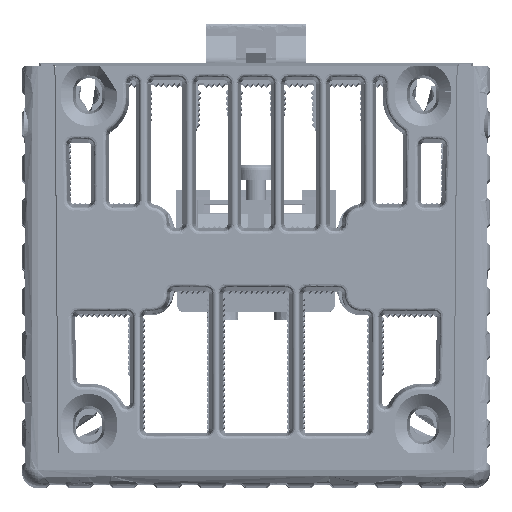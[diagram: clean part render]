
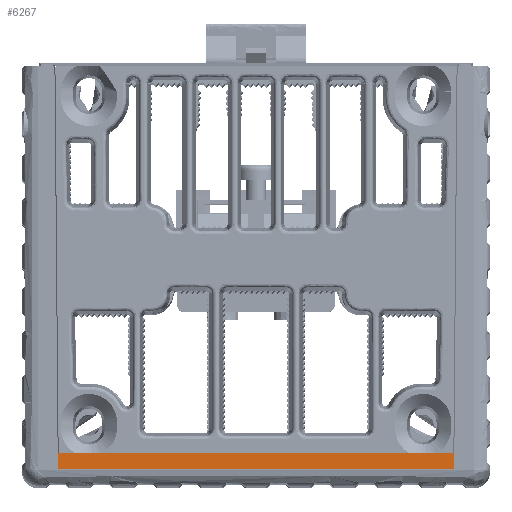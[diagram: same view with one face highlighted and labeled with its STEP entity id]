
A CAD part, top view. The second image highlights one B-rep face of the part: STEP entity #6267.
In plain terms, the highlighted free-form (B-spline) face has degree [1, 1] with [2, 2] control points.
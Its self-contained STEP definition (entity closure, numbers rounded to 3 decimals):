
#6267=ADVANCED_FACE($,(#8917),#40956,.T.);
#8917=FACE_OUTER_BOUND($,#11619,.T.);
#11619=EDGE_LOOP($,(#15979,#15980,#15981,#15982));
#15979=ORIENTED_EDGE($,*,*,#29606,.T.);
#15980=ORIENTED_EDGE($,*,*,#29607,.T.);
#15981=ORIENTED_EDGE($,*,*,#29608,.T.);
#15982=ORIENTED_EDGE($,*,*,#29609,.T.);
#29606=EDGE_CURVE($,#36928,#36929,#42947,.T.);
#29607=EDGE_CURVE($,#36929,#36930,#42948,.T.);
#29608=EDGE_CURVE($,#36930,#36926,#42949,.T.);
#29609=EDGE_CURVE($,#36926,#36928,#42950,.T.);
#36926=VERTEX_POINT($,#79847);
#36928=VERTEX_POINT($,#79849);
#36929=VERTEX_POINT($,#79850);
#36930=VERTEX_POINT($,#79851);
#40956=B_SPLINE_SURFACE_WITH_KNOTS($,1,1,((#72910,#72911),(#72912,#72913)),
.UNSPECIFIED.,.F.,.F.,.F.,(2,2),(2,2),(0.,1.),(2.098,4.598),
.UNSPECIFIED.);
#42947=B_SPLINE_CURVE_WITH_KNOTS($,1,(#61764,#61765),.UNSPECIFIED.,.F.,.F.,
(2,2),(0.,1.),.UNSPECIFIED.);
#42948=B_SPLINE_CURVE_WITH_KNOTS($,1,(#61766,#61767),.UNSPECIFIED.,.F.,.F.,
(2,2),(2.098,4.598),.UNSPECIFIED.);
#42949=B_SPLINE_CURVE_WITH_KNOTS($,1,(#61768,#61769),.UNSPECIFIED.,.F.,.F.,
(2,2),(-1.,0.),.UNSPECIFIED.);
#42950=B_SPLINE_CURVE_WITH_KNOTS($,1,(#61770,#61771),.UNSPECIFIED.,.F.,.F.,
(2,2),(-4.598,-2.098),.UNSPECIFIED.);
#61764=CARTESIAN_POINT($,(781.405,211.412,37.));
#61765=CARTESIAN_POINT($,(722.064,211.412,37.));
#61766=CARTESIAN_POINT($,(722.064,211.412,37.));
#61767=CARTESIAN_POINT($,(722.085,208.912,37.));
#61768=CARTESIAN_POINT($,(722.085,208.912,37.));
#61769=CARTESIAN_POINT($,(781.385,208.912,37.));
#61770=CARTESIAN_POINT($,(781.385,208.912,37.));
#61771=CARTESIAN_POINT($,(781.405,211.412,37.));
#72910=CARTESIAN_POINT($,(781.405,211.412,37.));
#72911=CARTESIAN_POINT($,(781.385,208.912,37.));
#72912=CARTESIAN_POINT($,(722.064,211.412,37.));
#72913=CARTESIAN_POINT($,(722.085,208.912,37.));
#79847=CARTESIAN_POINT($,(781.385,208.912,37.));
#79849=CARTESIAN_POINT($,(781.405,211.412,37.));
#79850=CARTESIAN_POINT($,(722.064,211.412,37.));
#79851=CARTESIAN_POINT($,(722.085,208.912,37.));
